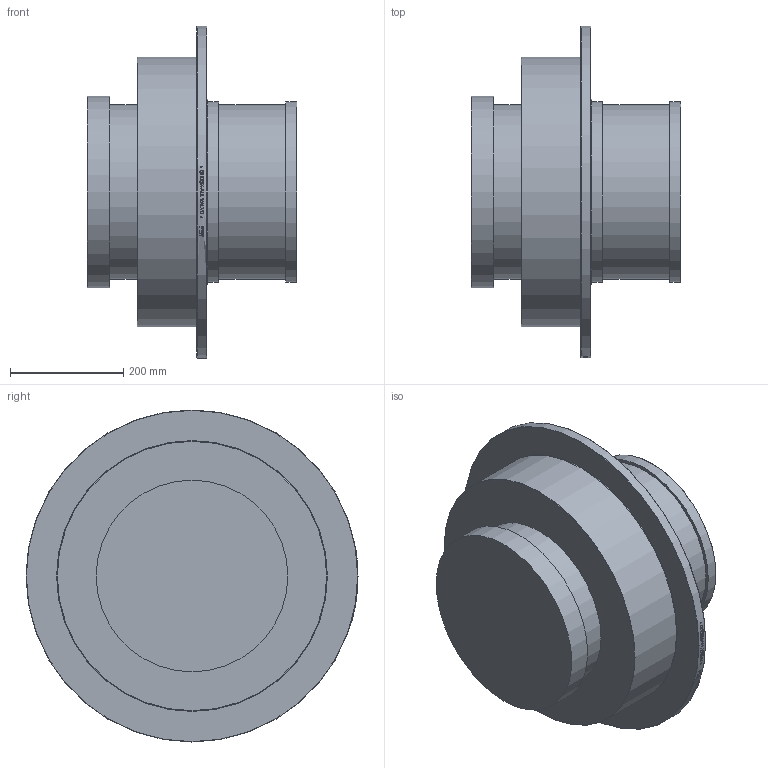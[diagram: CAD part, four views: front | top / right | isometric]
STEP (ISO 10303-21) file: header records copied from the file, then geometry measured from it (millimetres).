
FILE_DESCRIPTION( ( 'Unknown' ), '1' );
FILE_NAME( 'Y:/ENGR/3D Solid Edge Models/F1/F1 STEP/F1W.stp', 'Unknown', ( 'Unknown' ), ( 'Unknown' ), 'PSStep 14.0', 'Unknown', ' ' );
FILE_SCHEMA( ( 'AUTOMOTIVE_DESIGN { 1 0 10303 214 1 1 1 1 }' ) );
Length unit declared in the file: millimetre
Products named in the file (1): 1
Bounding box: 370.05 x 585.8 x 585.8 mm (x, y, z)
Volume: 42686186.6 mm3; surface area: 1011889.2 mm2
Topology: 1 solids, 1 shells, 218 faces, 552 edges, 366 vertices
Faces by surface type: plane 130, bspline 51, cylinder 30, torus 4, cone 3
Full cylindrical faces by diameter (mm): 307.594 x2, 318.897 x2, 338.328 x1, 476.377 x1, 585.8 x1
Entity records: 10794 total; most frequent: CARTESIAN_POINT 4982, ORIENTED_EDGE 1076, EDGE_CURVE 538, B_SPLINE_CURVE_WITH_KNOTS 516, DIRECTION 380, VERTEX_POINT 366, EDGE_LOOP 262, FACE_OUTER_BOUND 229
